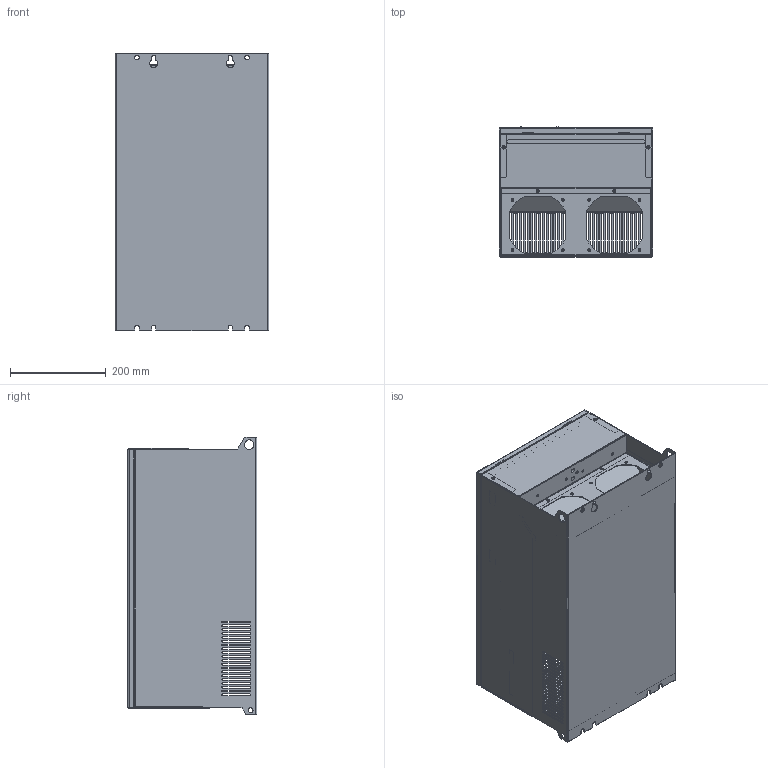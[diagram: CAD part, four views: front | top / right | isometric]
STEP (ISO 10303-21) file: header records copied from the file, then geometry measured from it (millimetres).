
FILE_DESCRIPTION((''),'2;1');
FILE_NAME('3100-4T45-110G_ASM','2024-06-17T16:51:44',('HuangFD'),(''),'CREO PARAMETRIC BY PTC INC, 2019010','CREO PARAMETRIC BY PTC INC, 2019010','');
FILE_SCHEMA(('CONFIG_CONTROL_DESIGN','GEOMETRIC_VALIDATION_PROPERTIES_MIM'));
Products named in the file (17): ZHUTI; ZHONGGEBAN; HANJIAN4; HANJIAN1; HANJIAN5; HANJIAN2; ZUXIANGTI_ASM; FENGSANGUJINGJIA; SHANGGEBAN-B-231117; CZQ-GUDINGJIA; CAOZUOQISHANGKE; CAOZUOQIXIAKE; CAOZUOQI_ASM; CEBAN; SHANGGAIBAN; GANGZHU-M4-30; 3100-4T45-110G_ASM
Assembly tree (24 placements, depth 3):
  3100-4T45-110G_ASM
    ZUXIANGTI_ASM
      ZHUTI
      ZHONGGEBAN
      HANJIAN4  x2
      HANJIAN1  x2
      HANJIAN5  x4
      HANJIAN2
    FENGSANGUJINGJIA
    SHANGGEBAN-B-231117
    CZQ-GUDINGJIA
    CAOZUOQI_ASM
      CAOZUOQISHANGKE
      CAOZUOQIXIAKE
    CEBAN
    SHANGGAIBAN
    GANGZHU-M4-30  x4
Bounding box: 320 x 270.7 x 580 mm (x, y, z)
Volume: 1402975.6 mm3; surface area: 2071729.3 mm2
Topology: 88 solids, 88 shells, 5297 faces, 14449 edges, 9373 vertices
Faces by surface type: plane 3981, cylinder 1122, cone 98, torus 51, bspline 33, extrusion 12
Entity records: 176784 total; most frequent: CARTESIAN_POINT 31191, ORIENTED_EDGE 27950, DIRECTION 26471, EDGE_CURVE 13975, VECTOR 11205, LINE 11193, VERTEX_POINT 9091, AXIS2_PLACEMENT_3D 7633
